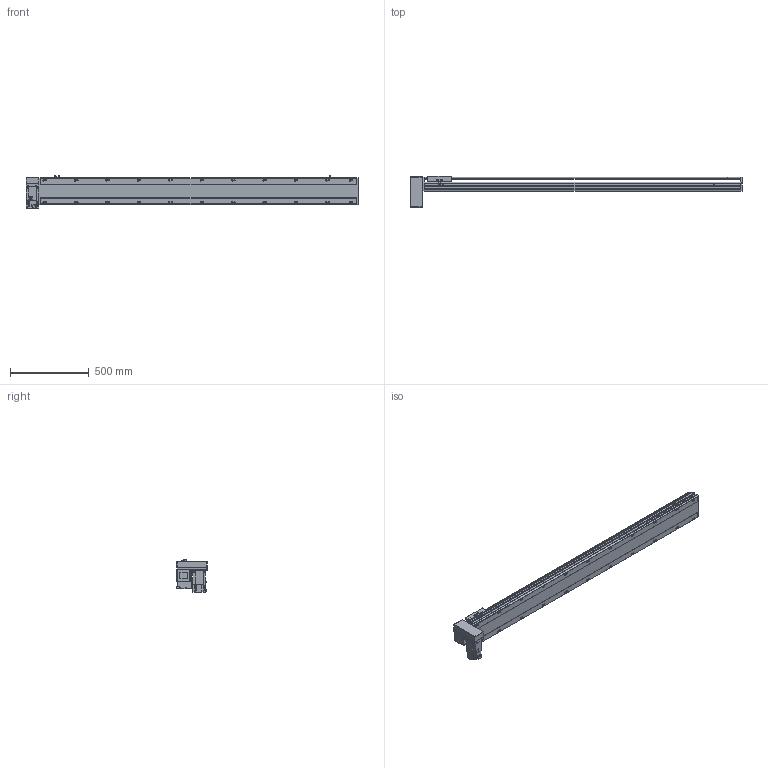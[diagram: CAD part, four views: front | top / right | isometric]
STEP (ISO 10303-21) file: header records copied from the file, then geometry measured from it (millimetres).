
FILE_DESCRIPTION( ( 'STEP AP214' ), '1' );
FILE_NAME( 'x:/temp/worker_5/temp/exporttempdir_3988_37_NyiSd/format_0/PBS170-P40-S1750-RD-T75-C1-N(0).stp', '2022-06-08T05:36:38', ( 'License CC BY-ND 4.0' ), ( 'CADENAS' ), ' ', 'PARTsolutions', ' ' );
FILE_SCHEMA( ( 'AUTOMOTIVE_DESIGN { 1 0 10303 214 1 1 1 1 }' ) );
Length unit declared in the file: millimetre
Products named in the file (7): PBS170-P40-S1750-RD-T75-C1-N(0); _PBS170-S1750()_body; _PBS170T-RD_motors; _T75-p1; _PBS170_sliser; _PBS170_plant; _PBS170_sensor
Assembly tree (8 placements, depth 2):
  PBS170-P40-S1750-RD-T75-C1-N(0)
    _PBS170-S1750()_body
    _PBS170T-RD_motors
    _T75-p1
    _PBS170_sliser
    _PBS170_plant
    _PBS170_sensor  x3
Bounding box: 2113 x 201 x 205.3 mm (x, y, z)
Volume: 16334979.5 mm3; surface area: 2084694 mm2
Topology: 8 solids, 8 shells, 1130 faces, 2995 edges, 1952 vertices
Faces by surface type: plane 705, cylinder 363, cone 52, sphere 8, torus 2
Full cylindrical faces by diameter (mm): 3.242 x4, 4 x2, 4.4 x4, 4.5 x6, 4.917 x4, 6 x9, 6.647 x30, 7 x2, 7.5 x4, 8 x8, 8.5 x22, 10 x4, 10.5 x22, 11 x2, 30 x2, 40 x1, 70 x1
Entity records: 41666 total; most frequent: CARTESIAN_POINT 6725, DIRECTION 5510, ORIENTED_EDGE 5208, EDGE_CURVE 2604, AXIS2_PLACEMENT_3D 1927, VERTEX_POINT 1802, LINE 1656, VECTOR 1656
